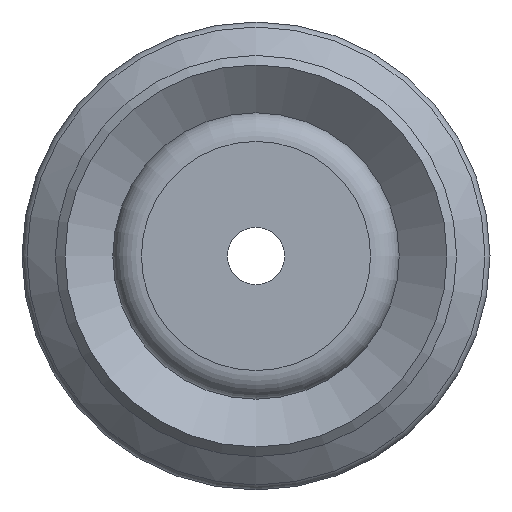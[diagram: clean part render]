
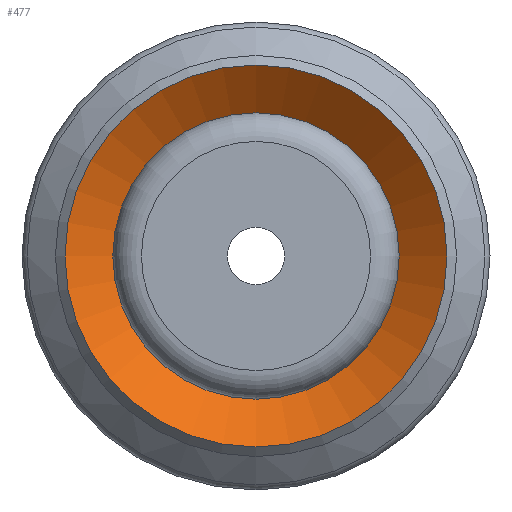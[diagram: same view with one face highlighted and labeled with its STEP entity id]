
A CAD part, front view. The second image highlights one B-rep face of the part: STEP entity #477.
In plain terms, the highlighted conical face has half-angle 52 degrees and reference radius 3 mm.
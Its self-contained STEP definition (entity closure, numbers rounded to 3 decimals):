
#477=ADVANCED_FACE('',(#681,#682),#683,.F.);
#681=FACE_BOUND('',#906,.T.);
#682=FACE_OUTER_BOUND('',#907,.T.);
#683=CONICAL_SURFACE('',#908,3.0,0.908);
#906=EDGE_LOOP('',(#1467));
#907=EDGE_LOOP('',(#1468));
#908=AXIS2_PLACEMENT_3D('',#1469,#1470,#1471);
#1467=ORIENTED_EDGE('',*,*,#1668,.F.);
#1468=ORIENTED_EDGE('',*,*,#1665,.T.);
#1469=CARTESIAN_POINT('',(0.0,7.741,0.));
#1470=DIRECTION('',(-0.0,-1.0,0.));
#1471=DIRECTION('',(0.0,0.,-1.0));
#1665=EDGE_CURVE('',#1914,#1914,#1915,.T.);
#1668=EDGE_CURVE('',#1920,#1920,#1921,.T.);
#1914=VERTEX_POINT('',#2476);
#1915=CIRCLE('',#2477,4.0);
#1920=VERTEX_POINT('',#2482);
#1921=CIRCLE('',#2483,3.0);
#2476=CARTESIAN_POINT('',(0.0,6.96,-4.0));
#2477=AXIS2_PLACEMENT_3D('',#2710,#2711,#2712);
#2482=CARTESIAN_POINT('',(0.0,7.741,-3.0));
#2483=AXIS2_PLACEMENT_3D('',#2719,#2720,#2721);
#2710=CARTESIAN_POINT('',(0.0,6.96,0.0));
#2711=DIRECTION('',(0.0,-1.0,0.));
#2712=DIRECTION('',(0.0,0.,-1.0));
#2719=CARTESIAN_POINT('',(0.0,7.741,0.));
#2720=DIRECTION('',(0.0,-1.0,0.));
#2721=DIRECTION('',(0.0,0.,-1.0));
